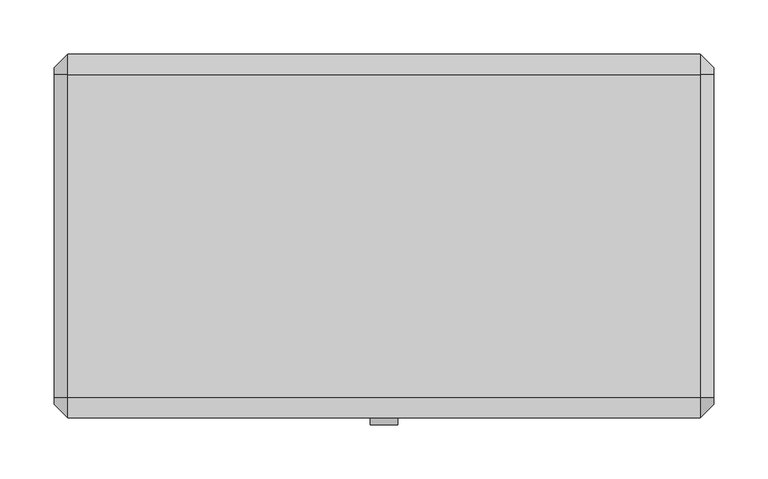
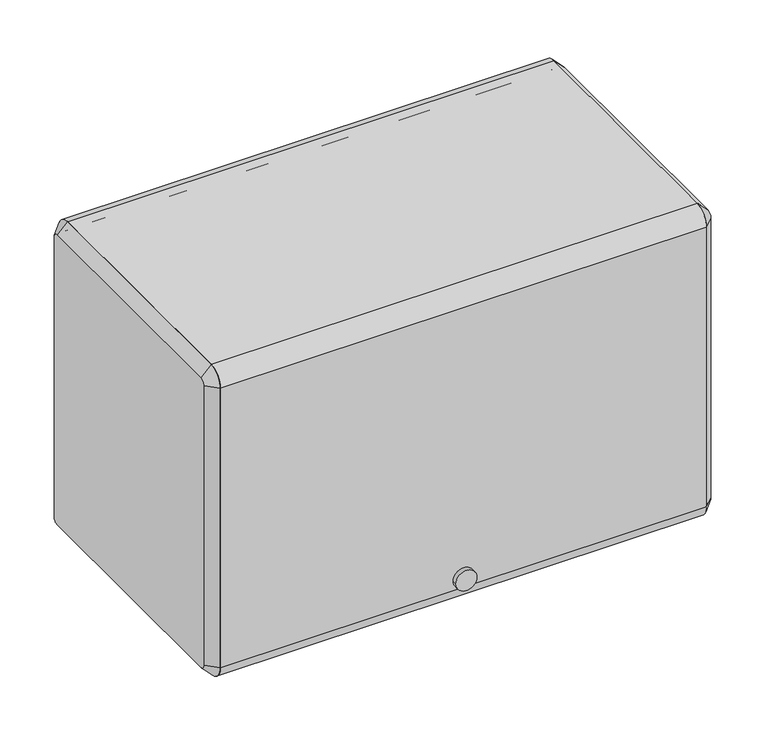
"""IFC4 building model written with IfcOpenShell, lengths in millimetres: furniture geometry."""

from ifc_helpers import new_model, si_unit, point, frame, frame_2d, origin, place, context, project, spatial, polyline, circle_curve, trimmed, segment, composite_curve, outline, extrude, source, transform, mapped, element, save
from ifc_brep_helpers import plane_surface, revolved_surface, advanced_brep


def furniture_fea97cc0(model_context):
    return source(origin(), model_context, "Body", "SolidModel", [
        extrude(outline(composite_curve([segment(polyline([(-136.525, 2019.3), (-136.525, 2032.0), (161.925, 2032.0)]), True, "CONTINUOUS"), segment(trimmed(circle_curve(frame_2d((161.925, 2012.95)), 19.05), [point((161.925, 2032.0))], [point((180.975, 2012.95))], False, "CARTESIAN"), True, "CONTINUOUS"), segment(polyline([(180.975, 2012.95), (168.275, 2012.95)]), True, "CONTINUOUS"), segment(trimmed(circle_curve(frame_2d((161.925, 2012.95)), 6.35), [point((168.275, 2012.95))], [point((161.925, 2019.3))], True, "CARTESIAN"), True, "CONTINUOUS"), segment(polyline([(161.925, 2019.3), (-136.525, 2019.3)]), True, "CONTINUOUS")], self_intersect=False)), frame((-292.1, 0.0, 0.0), z_axis=(1.0, 0.0, 0.0), x_axis=(0.0, 1.0, 0.0)), (0.0, 0.0, 1.0), 584.2),
        extrude(outline(composite_curve([segment(trimmed(circle_curve(frame_2d((-136.525, 2012.95)), 19.05), [point((-155.575, 2012.95))], [point((-136.525, 2032.0))], False, "CARTESIAN"), True, "CONTINUOUS"), segment(polyline([(-136.525, 2032.0), (-136.525, 2019.3)]), True, "CONTINUOUS"), segment(trimmed(circle_curve(frame_2d((-136.525, 2012.95)), 6.35), [point((-136.525, 2019.3))], [point((-142.875, 2012.95))], True, "CARTESIAN"), True, "CONTINUOUS"), segment(polyline([(-142.875, 2012.95), (-142.875, 1657.35)]), True, "CONTINUOUS"), segment(trimmed(circle_curve(frame_2d((-136.525, 1657.35)), 6.35), [point((-142.875, 1657.35))], [point((-136.525, 1651.0))], True, "CARTESIAN"), True, "CONTINUOUS"), segment(polyline([(-136.525, 1651.0), (-136.525, 1638.3)]), True, "CONTINUOUS"), segment(trimmed(circle_curve(frame_2d((-136.525, 1657.35)), 19.05), [point((-136.525, 1638.3))], [point((-155.575, 1657.35))], False, "CARTESIAN"), True, "CONTINUOUS"), segment(polyline([(-155.575, 1657.35), (-155.575, 2012.95)]), True, "CONTINUOUS")], self_intersect=False)), frame((-292.1, 0.0, 0.0), z_axis=(1.0, 0.0, 0.0), x_axis=(0.0, 1.0, 0.0)), (0.0, 0.0, 1.0), 584.2),
        extrude(outline(composite_curve([segment(trimmed(circle_curve(frame_2d((1670.0118906, 0.0201199)), 12.7253951), [point((1670.0118906, 12.745515))], [point((1670.0118906, -12.7052752))], False, "CARTESIAN"), True, "CONTINUOUS"), segment(trimmed(circle_curve(frame_2d((1670.0118906, 0.0201199)), 12.7253951), [point((1670.0118906, -12.7052752))], [point((1670.0118906, 12.745515))], False, "CARTESIAN"), True, "CONTINUOUS")], self_intersect=False)), frame((0.0, -161.925, 0.0), z_axis=(0.0, 1.0, 0.0), x_axis=(0.0, 0.0, 1.0)), (0.0, 0.0, 1.0), 6.35),
        extrude(outline(polyline([(-136.525, 1676.4), (161.925, 1676.4), (161.925, 1714.5), (174.625, 1714.5), (174.625, 1711.325), (165.1, 1711.325), (165.1, 1673.225), (-133.35, 1673.225), (-133.35, 1654.175), (-136.525, 1654.175), (-136.525, 1676.4)])), frame((-292.1, 0.0, 0.0), z_axis=(1.0, 0.0, 0.0), x_axis=(0.0, 1.0, 0.0)), (0.0, 0.0, 1.0), 584.2),
        advanced_brep(
        [(304.8, 161.925, 2019.3), (304.8, -136.525, 2019.3), (304.8, -142.875, 2012.95), (304.8, -142.875, 1657.35), (304.8, -136.525, 1651.0), (304.8, 161.925, 1651.0), (304.8, 168.275, 1657.35), (304.8, 168.275, 2012.95), (292.1, 161.925, 2032.0), (292.1, 180.975, 2012.95), (292.1, 180.975, 1657.35), (292.1, 161.925, 1638.3), (292.1, -136.525, 1638.3), (292.1, -155.575, 1657.35), (292.1, -155.575, 2012.95), (292.1, -136.525, 2032.0)],
        [
            (0, 1),
            (1, 2, circle_curve(frame((304.8, -136.525, 2012.95), z_axis=(1.0, 6.490807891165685e-12, -6.60804744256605e-12), x_axis=(6.608048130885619e-12, 0.0, 1.0)), 6.35)),
            (2, 3),
            (3, 4, circle_curve(frame((304.8, -136.525, 1657.35), z_axis=(1.0, 3.3733016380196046e-12, 3.3679725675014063e-12), x_axis=(3.3733436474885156e-12, -1.0, 0.0)), 6.35)),
            (4, 5),
            (5, 6, circle_curve(frame((304.8, 161.925, 1657.35), z_axis=(1.0, 3.381295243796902e-12, -3.3892888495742e-12), x_axis=(-3.3893585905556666e-12, 0.0, -1.0)), 6.35)),
            (6, 7),
            (7, 0, circle_curve(frame((304.8, 161.925, 2012.95), z_axis=(1.0, 6.482814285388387e-12, 6.394884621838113e-12), x_axis=(-6.482754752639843e-12, 1.0, 0.0)), 6.35)),
            (8, 9, circle_curve(frame((292.1, 161.925, 2012.95), z_axis=(-1.0, -6.482814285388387e-12, -6.394884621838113e-12), x_axis=(-6.482754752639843e-12, 1.0, 0.0)), 19.05)),
            (9, 10),
            (10, 11, circle_curve(frame((292.1, 161.925, 1657.35), z_axis=(-1.0, -3.381295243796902e-12, 3.3892888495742e-12), x_axis=(-3.3893585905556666e-12, 0.0, -1.0)), 19.05)),
            (11, 12),
            (12, 13, circle_curve(frame((292.1, -136.525, 1657.35), z_axis=(-1.0, -3.3733016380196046e-12, -3.3679725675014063e-12), x_axis=(3.3733436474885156e-12, -1.0, 0.0)), 19.05)),
            (13, 14),
            (14, 15, circle_curve(frame((292.1, -136.525, 2012.95), z_axis=(-1.0, -6.490807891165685e-12, 6.60804744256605e-12), x_axis=(6.608048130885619e-12, 0.0, 1.0)), 19.05)),
            (15, 8),
            (15, 1),
            (0, 8),
            (14, 2),
            (13, 3),
            (12, 4),
            (11, 5),
            (10, 6),
            (9, 7),
        ],
        [
            plane_surface(frame((304.8, 12.7, 1835.15), z_axis=(1.0, 0.0, 0.0), x_axis=(0.0, -1.0, 0.0))),
            plane_surface(frame((292.1, 12.7, 1835.15), z_axis=(-1.0, 0.0, 0.0), x_axis=(0.0, -1.0, 0.0))),
            plane_surface(frame((292.1, 12.7, 2032.0), z_axis=(0.7071067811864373, 0.0, 0.7071067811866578), x_axis=(0.0, -1.0, 0.0))),
            revolved_surface(polyline([(304.80000000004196, -136.525, 2019.2999999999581), (292.1, -136.525, 2032.0)]), (311.15, -136.525, 2012.95), (-1.0, -6.490807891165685e-12, 6.60804744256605e-12)),
            plane_surface(frame((292.1, -155.575, 1835.15), z_axis=(0.707106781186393, -0.707106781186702, 0.0), x_axis=(0.0, 0.0, -1.0))),
            revolved_surface(polyline([(304.80000000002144, -142.87499999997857, 1657.35), (292.1, -155.575, 1657.35)]), (311.15, -136.525, 1657.35), (-1.0, -3.3733016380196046e-12, -3.3679725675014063e-12)),
            plane_surface(frame((292.1, 12.7, 1638.3), z_axis=(0.7071067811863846, 0.0, -0.7071067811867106), x_axis=(0.0, 1.0, 0.0))),
            revolved_surface(polyline([(304.8, 161.925, 1651.0), (292.09999999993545, 161.925, 1638.2999999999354)]), (311.15, 161.925, 1657.35), (-1.0, -3.381295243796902e-12, 3.3892888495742e-12)),
            plane_surface(frame((292.1, 180.975, 1835.15), z_axis=(0.707106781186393, 0.707106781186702, 0.0), x_axis=(0.0, 0.0, 1.0))),
            revolved_surface(polyline([(304.8, 168.27499999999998, 2012.95), (292.0999999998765, 180.9750000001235, 2012.95)]), (311.15, 161.925, 2012.95), (-1.0, -6.482814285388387e-12, -6.394884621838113e-12)),
        ],
        [
            (0, [[1, 2, 3, 4, 5, 6, 7, 8]]),
            (1, [[9, 10, 11, 12, 13, 14, 15, 16]]),
            (2, [[-16, 17, -1, 18]]),
            (3, [[-15, 19, -2, -17]]),
            (4, [[-14, 20, -3, -19]]),
            (5, [[-13, 21, -4, -20]]),
            (6, [[-12, 22, -5, -21]]),
            (7, [[-11, 23, -6, -22]]),
            (8, [[-10, 24, -7, -23]]),
            (9, [[-9, -18, -8, -24]]),
        ],
    ),
        advanced_brep(
        [(-304.8, -136.525, 2019.3), (-304.8, 161.925, 2019.3), (-304.8, 168.275, 2012.95), (-304.8, 168.275, 1657.35), (-304.8, 161.925, 1651.0), (-304.8, -136.525, 1651.0), (-304.8, -142.875, 1657.35), (-304.8, -142.875, 2012.95), (-292.1, -136.525, 2032.0), (-292.1, -155.575, 2012.95), (-292.1, -155.575, 1657.35), (-292.1, -136.525, 1638.3), (-292.1, 161.925, 1638.3), (-292.1, 180.975, 1657.35), (-292.1, 180.975, 2012.95), (-292.1, 161.925, 2032.0)],
        [
            (0, 1),
            (1, 2, circle_curve(frame((-304.8, 161.925, 2012.95), z_axis=(-1.0, 3.365308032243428e-12, 3.453237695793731e-12), x_axis=(3.4532613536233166e-12, 0.0, 1.0)), 6.35)),
            (2, 3),
            (3, 4, circle_curve(frame((-304.8, 161.925, 1657.35), z_axis=(-1.0, 0.0, 0.0), x_axis=(0.0, 1.0, 0.0)), 6.35)),
            (4, 5),
            (5, 6, circle_curve(frame((-304.8, -136.525, 1657.35), z_axis=(-1.0, 0.0, 0.0), x_axis=(0.0, 0.0, -1.0)), 6.35)),
            (6, 7),
            (7, 0, circle_curve(frame((-304.8, -136.525, 2012.95), z_axis=(-1.0, 3.3839597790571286e-12, -3.3040237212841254e-12), x_axis=(-3.38402027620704e-12, -1.0, 0.0)), 6.35)),
            (8, 9, circle_curve(frame((-292.1, -136.525, 2012.95), z_axis=(1.0, -3.3839597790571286e-12, 3.3040237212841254e-12), x_axis=(-3.38402027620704e-12, -1.0, 0.0)), 19.05)),
            (9, 10),
            (10, 11, circle_curve(frame((-292.1, -136.525, 1657.35), z_axis=(1.0, 0.0, 0.0), x_axis=(0.0, 0.0, -1.0)), 19.05)),
            (11, 12),
            (12, 13, circle_curve(frame((-292.1, 161.925, 1657.35), z_axis=(1.0, 0.0, 0.0), x_axis=(0.0, 1.0, 0.0)), 19.05)),
            (13, 14),
            (14, 15, circle_curve(frame((-292.1, 161.925, 2012.95), z_axis=(1.0, -3.365308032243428e-12, -3.453237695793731e-12), x_axis=(3.4532613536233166e-12, 0.0, 1.0)), 19.05)),
            (15, 8),
            (15, 1),
            (0, 8),
            (14, 2),
            (13, 3),
            (12, 4),
            (11, 5),
            (10, 6),
            (9, 7),
        ],
        [
            plane_surface(frame((-304.8, 12.7, 1835.15), z_axis=(-1.0, 0.0, 0.0), x_axis=(0.0, -1.0, 0.0))),
            plane_surface(frame((-292.1, 12.7, 1835.15), z_axis=(1.0, 0.0, 0.0), x_axis=(0.0, -1.0, 0.0))),
            plane_surface(frame((-292.1, 12.7, 2032.0), z_axis=(-0.7071067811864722, 0.0, 0.707106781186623), x_axis=(0.0, 1.0, 0.0))),
            revolved_surface(polyline([(-304.8, 161.925, 2019.3), (-292.09999999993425, 161.925, 2032.0000000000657)]), (-311.15, 161.925, 2012.95), (1.0, -3.365308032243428e-12, -3.453237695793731e-12)),
            plane_surface(frame((-292.1, 180.975, 1835.15), z_axis=(-0.7071067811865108, 0.7071067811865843, 0.0), x_axis=(0.0, 0.0, -1.0))),
            revolved_surface(polyline([(-304.8, 168.27499999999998, 1657.35), (-292.1, 180.975, 1657.35)]), (-311.15, 161.925, 1657.35), (1.0, 0.0, 0.0)),
            plane_surface(frame((-292.1, 12.7, 1638.3), z_axis=(-0.7071067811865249, 0.0, -0.7071067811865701), x_axis=(0.0, -1.0, 0.0))),
            revolved_surface(polyline([(-304.8, -136.525, 1651.0), (-292.1, -136.525, 1638.3)]), (-311.15, -136.525, 1657.35), (1.0, 0.0, 0.0)),
            plane_surface(frame((-292.1, -155.575, 1835.15), z_axis=(-0.7071067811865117, -0.7071067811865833, 0.0), x_axis=(0.0, 0.0, 1.0))),
            revolved_surface(polyline([(-304.8000000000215, -142.87499999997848, 2012.95), (-292.1, -155.575, 2012.95)]), (-311.15, -136.525, 2012.95), (1.0, -3.3839597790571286e-12, 3.3040237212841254e-12)),
        ],
        [
            (0, [[1, 2, 3, 4, 5, 6, 7, 8]]),
            (1, [[9, 10, 11, 12, 13, 14, 15, 16]]),
            (2, [[-16, 17, -1, 18]]),
            (3, [[-15, 19, -2, -17]]),
            (4, [[-14, 20, -3, -19]]),
            (5, [[-13, 21, -4, -20]]),
            (6, [[-12, 22, -5, -21]]),
            (7, [[-11, 23, -6, -22]]),
            (8, [[-10, 24, -7, -23]]),
            (9, [[-9, -18, -8, -24]]),
        ],
    ),
    ])


if __name__ == "__main__":
    model = new_model("IFC4")
    model_context = context("Model", 3, world=origin())
    ifc_project = project(units=[si_unit("LENGTHUNIT", "METRE", prefix="MILLI")], contexts=[model_context])
    site = spatial("IfcSite", under=ifc_project)
    building = spatial("IfcBuilding", under=site)
    placement = place(None, origin())
    furniture_shape = furniture_fea97cc0(model_context)
    element("IfcFurniture", 1, ObjectType="HermanMiller_ActionOffice_A3352_B-StyleFlipperDoorUnit : 15 1/2\"H x 13\"D x 24\"W", at=placement, inside=building, context=model_context, shape_type="MappedRepresentation", body=[
        mapped(furniture_shape, transform((0.0, 0.0, 0.0), x_axis=(1.0, 0.0, 0.0), y_axis=(0.0, 1.0, 0.0), z_axis=(0.0, 0.0, 1.0))),
    ])
    save(model, "model.ifc")
